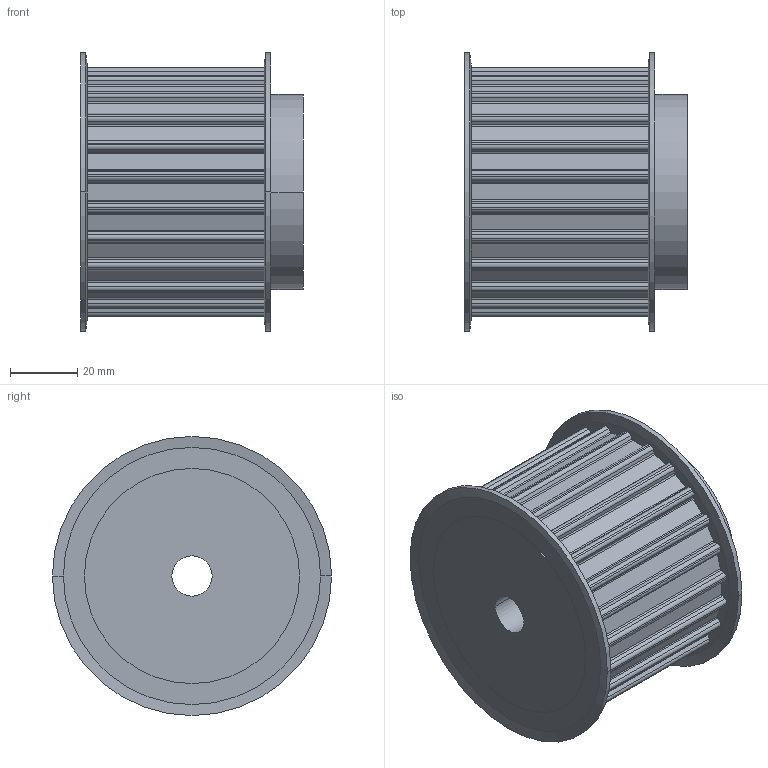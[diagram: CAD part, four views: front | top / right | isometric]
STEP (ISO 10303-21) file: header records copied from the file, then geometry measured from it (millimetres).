
FILE_DESCRIPTION( ( '' ), '1' );
FILE_NAME( 'C:/Users/Stangenbergd/Documents/CAD_Step/1/16852400.stp', '2021-10-19T09:50:39', ( '' ), ( '' ), ' ', ' ', ' ' );
FILE_SCHEMA( ( 'CONFIG_CONTROL_DESIGN' ) );
Length unit declared in the file: millimetre
Products named in the file (1): 1
Bounding box: 66.31 x 83 x 83 mm (x, y, z)
Volume: 247296.6 mm3; surface area: 33651.6 mm2
Topology: 1 solids, 1 shells, 219 faces, 628 edges, 416 vertices
Faces by surface type: cylinder 132, plane 79, cone 8
Entity records: 7318 total; most frequent: DIRECTION 1340, CARTESIAN_POINT 1264, ORIENTED_EDGE 1256, EDGE_CURVE 628, AXIS2_PLACEMENT_3D 492, VERTEX_POINT 416, LINE 356, VECTOR 356
